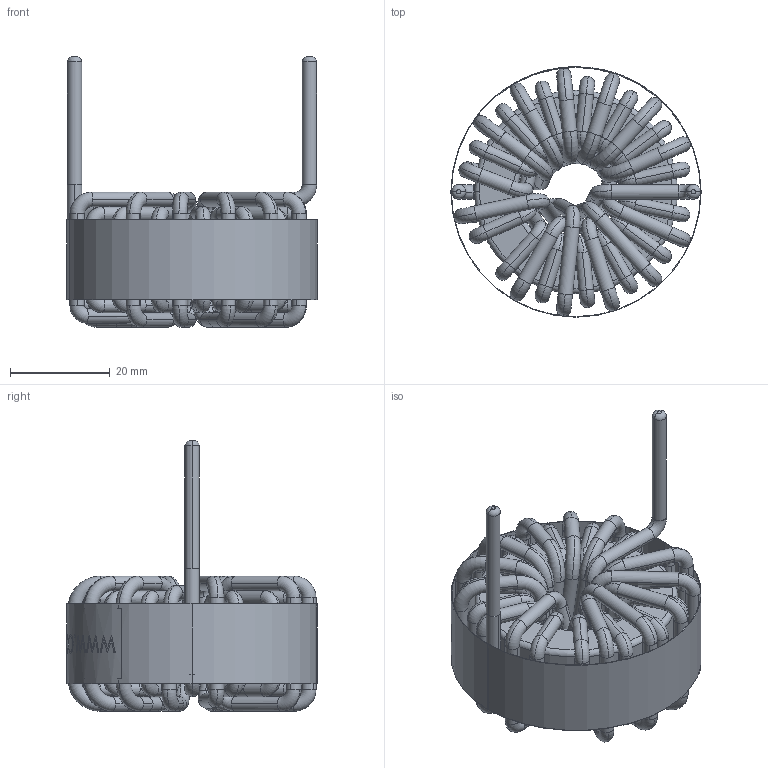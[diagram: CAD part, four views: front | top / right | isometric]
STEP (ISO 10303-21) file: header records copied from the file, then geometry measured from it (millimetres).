
FILE_DESCRIPTION (( 'STEP AP214' ), '1' );
FILE_NAME ('HF400-900M-55AH.STEP', '2021-03-18T10:56:35', ( '' ), ( '' ), 'SwSTEP 2.0', 'SolidWorks 2015', '' );
FILE_SCHEMA (( 'AUTOMOTIVE_DESIGN' ));
Length unit declared in the file: millimetre
Products named in the file (4): WINDING; CORE; WRAPPER; HF400-900M-55AH
Assembly tree (3 placements, depth 2):
  HF400-900M-55AH
    CORE
    WINDING
    WRAPPER
Bounding box: 50.1 x 50.12 x 54.14 mm (x, y, z)
Volume: 31885.3 mm3; surface area: 35129.5 mm2
Topology: 29 solids, 29 shells, 930 faces, 2493 edges, 1642 vertices
Faces by surface type: cylinder 398, torus 328, bspline 103, plane 101
Entity records: 43210 total; most frequent: CARTESIAN_POINT 16025, DIRECTION 5524, ORIENTED_EDGE 4986, AXIS2_PLACEMENT_3D 2561, EDGE_CURVE 2493, CIRCLE 1728, VERTEX_POINT 1642, EDGE_LOOP 973
